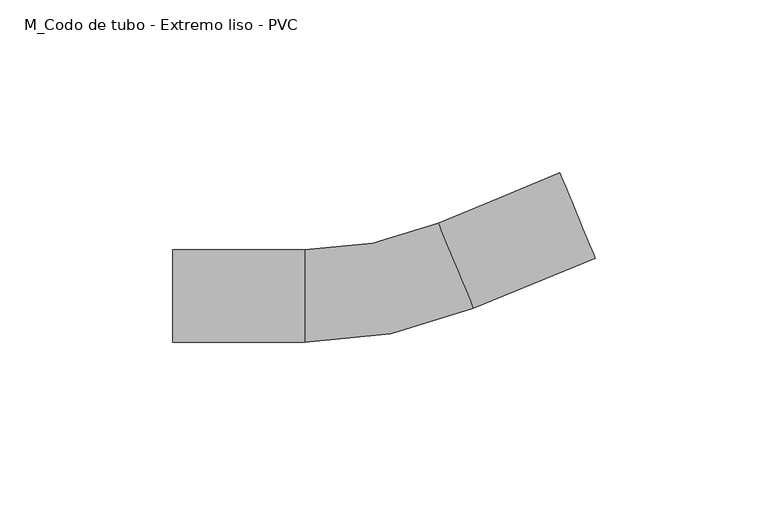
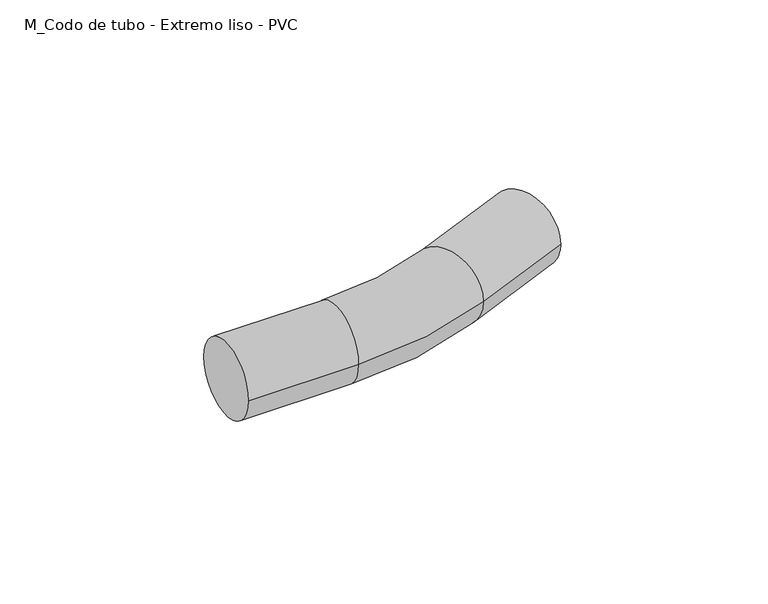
"""IFC4 building model written with IfcOpenShell, lengths in millimetres: cable carrier fitting geometry, M_Codo de tubo - Extremo liso - PVC : CODO ILUMINACION."""

from ifc_helpers import new_model, si_unit, point, frame, origin, place, context, project, spatial, circle_curve, ellipse_curve, trimmed, source, transform, mapped, element, save
from ifc_brep_helpers import plane_surface, cylinder_surface, revolved_surface, advanced_brep


def m_codo_de_tubo_extremo_liso_pvc_2ef7902a(model_context):
    return source(origin(), model_context, "Body", "AdvancedBrep", [
        advanced_brep(
        [(-60.8157272, -13.335, 0.0), (-60.8157272, 13.335, 0.0), (-22.7157272, -13.335, 0.0), (-22.7157272, 13.335, 0.0), (15.8905695, 21.0075293, 0.0), (26.0884592, -3.6357648, 0.0), (61.2931651, 10.9326491, 0.0), (51.0952754, 35.5759432, 0.0)],
        [
            (0, 1, circle_curve(frame((-60.8157272, 0.0, 0.0), z_axis=(-1.0, 0.0, 0.0), x_axis=(0.0, 1.0, 0.0)), 13.335)),
            (1, 0, circle_curve(frame((-60.8157272, 0.0, 0.0), z_axis=(-1.0, 0.0, 0.0), x_axis=(0.0, 1.0, 0.0)), 13.335)),
            (0, 2),
            (2, 3, circle_curve(frame((-22.7157272, 0.0, 0.0), z_axis=(-1.0, 0.0, 0.0), x_axis=(0.0, 1.0, 0.0)), 13.335)),
            (3, 1),
            (3, 2, circle_curve(frame((-22.7157272, 0.0, 0.0), z_axis=(-1.0, 0.0, 0.0), x_axis=(0.0, 1.0, 0.0)), 13.335)),
            (4, 3, circle_curve(frame((-22.7157272, 114.3, 0.0), z_axis=(0.0, 0.0, -1.0), x_axis=(0.0, -1.0, 0.0)), 100.965)),
            (2, 5, circle_curve(frame((-22.7157272, 114.3, 0.0), z_axis=(0.0, 0.0, 1.0), x_axis=(0.0, -1.0, 0.0)), 127.635)),
            (5, 4, circle_curve(frame((20.9895143, 8.6858823, 0.0), z_axis=(-0.9240080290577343, -0.3823730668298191, 0.0), x_axis=(-0.3823730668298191, 0.9240080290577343, 0.0)), 13.335)),
            (4, 5, circle_curve(frame((20.9895143, 8.6858823, 0.0), z_axis=(-0.9240080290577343, -0.3823730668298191, 0.0), x_axis=(-0.3823730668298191, 0.9240080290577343, 0.0)), 13.335)),
            (6, 7, circle_curve(frame((56.1942202, 23.2542961, 0.0), z_axis=(0.9240080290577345, 0.38237306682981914, 0.0), x_axis=(-0.38237306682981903, 0.9240080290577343, 0.0)), 13.335)),
            (7, 6, circle_curve(frame((56.1942202, 23.2542961, 0.0), z_axis=(0.9240080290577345, 0.38237306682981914, 0.0), x_axis=(-0.38237306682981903, 0.9240080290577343, 0.0)), 13.335)),
            (5, 6),
            (7, 4),
        ],
        [
            plane_surface(frame((-60.8157272, 0.0, 0.0), z_axis=(-1.0, 0.0, 0.0), x_axis=(0.0, 0.0, 1.0))),
            cylinder_surface(frame((-60.8157272, 0.0, 0.0), z_axis=(-1.0, 0.0, 0.0), x_axis=(0.0, 1.0, 0.0)), 13.335),
            revolved_surface(trimmed(ellipse_curve(frame((-22.7157272, 0.0, 0.0), z_axis=(-1.0, 0.0, 0.0), x_axis=(0.0, 1.0, 0.0)), 13.335, 13.335), [point((-22.7157272, -13.335, 0.0))], [point((-22.7157272, 13.335, 0.0))], True, "CARTESIAN"), (-22.7157272, 114.3, 0.0), (0.0, 0.0, 1.0)),
            revolved_surface(trimmed(ellipse_curve(frame((-22.7157272, 0.0, 0.0), z_axis=(-1.0, 0.0, 0.0), x_axis=(0.0, 1.0, 0.0)), 13.335, 13.335), [point((-22.7157272, 13.335, 0.0))], [point((-22.7157272, -13.335, 0.0))], True, "CARTESIAN"), (-22.7157272, 114.3, 0.0), (0.0, 0.0, 1.0)),
            plane_surface(frame((56.1942202, 23.2542961, 0.0), z_axis=(0.9240080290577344, 0.3823730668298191, 0.0), x_axis=(0.0, 0.0, 1.0))),
            cylinder_surface(frame((20.9895143, 8.6858823, 0.0), z_axis=(-0.9240080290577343, -0.38237306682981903, 0.0), x_axis=(-0.38237306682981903, 0.9240080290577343, 0.0)), 13.335),
        ],
        [
            (0, [[1, 2]]),
            (1, [[-1, 3, 4, 5]]),
            (1, [[-2, -5, 6, -3]]),
            (2, [[7, -4, 8, 9]]),
            (3, [[-8, -6, -7, 10]]),
            (4, [[11, 12]]),
            (5, [[-9, 13, -12, 14]]),
            (5, [[-10, -14, -11, -13]]),
        ],
    ),
    ])


if __name__ == "__main__":
    model = new_model("IFC4")
    model_context = context("Model", 3, world=origin())
    ifc_project = project(units=[si_unit("LENGTHUNIT", "METRE", prefix="MILLI")], contexts=[model_context])
    site = spatial("IfcSite", under=ifc_project)
    building = spatial("IfcBuilding", under=site)
    placement = place(None, origin())
    m_codo_de_tubo_extremo_liso_pvc_shape = m_codo_de_tubo_extremo_liso_pvc_2ef7902a(model_context)
    element("IfcCableCarrierFitting", 1, ObjectType="M_Codo de tubo - Extremo liso - PVC : CODO ILUMINACION", at=placement, inside=building, context=model_context, shape_type="MappedRepresentation", body=[
        mapped(m_codo_de_tubo_extremo_liso_pvc_shape, transform((0.0, 0.0, 0.0), x_axis=(1.0, 0.0, 0.0), y_axis=(0.0, 1.0, 0.0), z_axis=(0.0, 0.0, 1.0))),
    ])
    save(model, "model.ifc")
